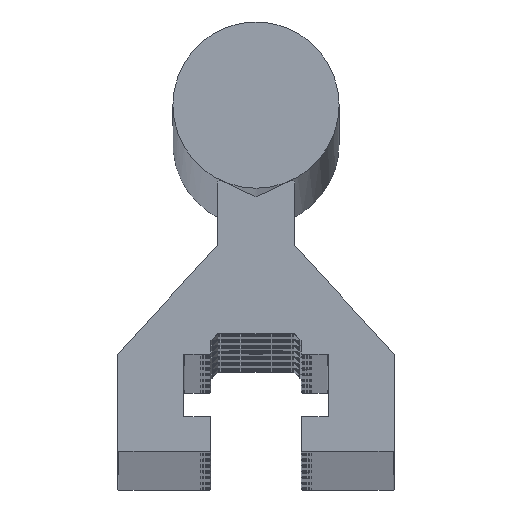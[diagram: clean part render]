
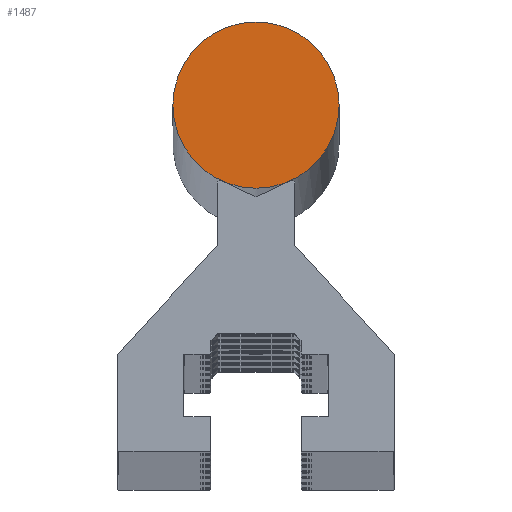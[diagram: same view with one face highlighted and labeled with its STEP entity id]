
A CAD part, top view. The second image highlights one B-rep face of the part: STEP entity #1487.
In plain terms, the highlighted planar face has unit normal (0, 0, 1).
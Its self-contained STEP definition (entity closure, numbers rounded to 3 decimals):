
#1487 = ADVANCED_FACE ( 'NONE', ( #29294 ), #32928, .T. ) ;
#5275 = DIRECTION ( 'NONE',  ( 1., 0., 0. ) ) ;
#6764 = DIRECTION ( 'NONE',  ( 0., 0., 1. ) ) ;
#6889 = CARTESIAN_POINT ( 'NONE',  ( 0., 25., 1. ) ) ;
#12698 = CARTESIAN_POINT ( 'NONE',  ( 6., 25., 1. ) ) ;
#15804 = EDGE_LOOP ( 'NONE', ( #20073 ) ) ;
#18006 = AXIS2_PLACEMENT_3D ( 'NONE', #33587, #32890, #32831 ) ;
#20073 = ORIENTED_EDGE ( 'NONE', *, *, #21906, .T. ) ;
#21906 = EDGE_CURVE ( 'NONE', #29344, #29344, #28788, .T. ) ;
#25074 = AXIS2_PLACEMENT_3D ( 'NONE', #6889, #6764, #5275 ) ;
#28788 = CIRCLE ( 'NONE', #25074, 6. ) ;
#29294 = FACE_OUTER_BOUND ( 'NONE', #15804, .T. ) ;
#29344 = VERTEX_POINT ( 'NONE', #12698 ) ;
#32831 = DIRECTION ( 'NONE',  ( 1., 0., 0. ) ) ;
#32890 = DIRECTION ( 'NONE',  ( 0., 0., 1. ) ) ;
#32928 = PLANE ( 'NONE',  #18006 ) ;
#33587 = CARTESIAN_POINT ( 'NONE',  ( 0., 25., 1. ) ) ;
